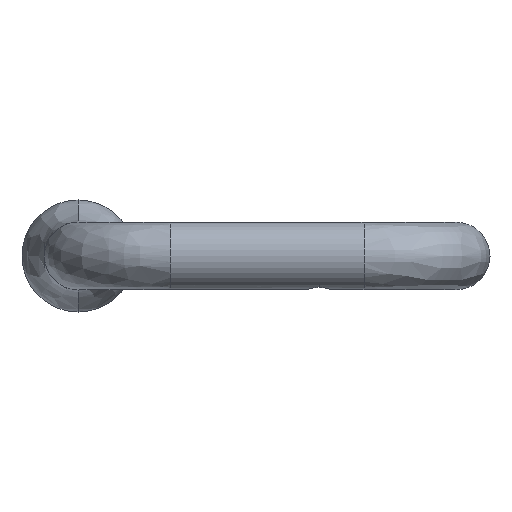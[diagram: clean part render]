
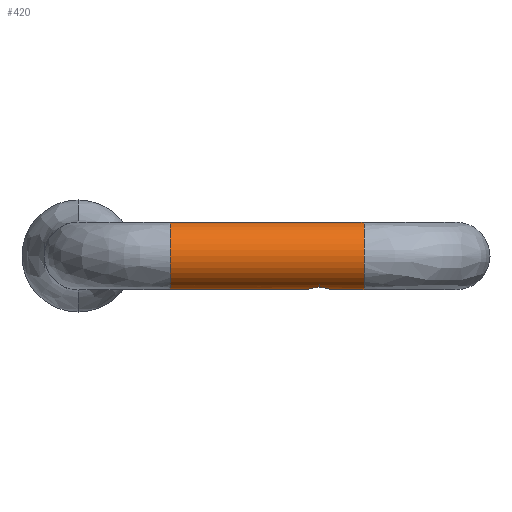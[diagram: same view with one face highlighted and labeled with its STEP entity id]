
A CAD part, front view. The second image highlights one B-rep face of the part: STEP entity #420.
In plain terms, the highlighted cylindrical face has radius 6 mm (diameter 12 mm), a partial arc.
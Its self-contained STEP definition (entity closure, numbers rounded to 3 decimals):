
#420=ADVANCED_FACE('',(#843),#5998,.T.);
#843=FACE_OUTER_BOUND('',#1266,.T.);
#1266=EDGE_LOOP('',(#2990,#2991,#2992,#2993,#2994,#2995,#2996,#2997,#2998));
#2990=ORIENTED_EDGE('',*,*,#3924,.F.);
#2991=ORIENTED_EDGE('',*,*,#3925,.F.);
#2992=ORIENTED_EDGE('',*,*,#3956,.F.);
#2993=ORIENTED_EDGE('',*,*,#3938,.F.);
#2994=ORIENTED_EDGE('',*,*,#3948,.F.);
#2995=ORIENTED_EDGE('',*,*,#3947,.F.);
#2996=ORIENTED_EDGE('',*,*,#3937,.F.);
#2997=ORIENTED_EDGE('',*,*,#3923,.F.);
#2998=ORIENTED_EDGE('',*,*,#3931,.F.);
#3923=EDGE_CURVE('',#5881,#5882,#3965,.T.);
#3924=EDGE_CURVE('',#5888,#5880,#3966,.T.);
#3925=EDGE_CURVE('',#5887,#5888,#4531,.T.);
#3931=EDGE_CURVE('',#5880,#5881,#4537,.T.);
#3937=EDGE_CURVE('',#5882,#5883,#5420,.T.);
#3938=EDGE_CURVE('',#5885,#5886,#5421,.T.);
#3947=EDGE_CURVE('',#5883,#5884,#5422,.T.);
#3948=EDGE_CURVE('',#5884,#5885,#5423,.T.);
#3956=EDGE_CURVE('',#5886,#5887,#3979,.T.);
#3965=(
BOUNDED_CURVE()
B_SPLINE_CURVE(3,(#15881,#15882,#15883,#15884),.UNSPECIFIED.,.F.,.F.)
B_SPLINE_CURVE_WITH_KNOTS((4,4),(0.,5.819),.UNSPECIFIED.)
CURVE()
GEOMETRIC_REPRESENTATION_ITEM()
RATIONAL_B_SPLINE_CURVE((1.,1.,1.,1.))
REPRESENTATION_ITEM('')
);
#3966=(
BOUNDED_CURVE()
B_SPLINE_CURVE(3,(#15885,#15886,#15887,#15888),.UNSPECIFIED.,.F.,.F.)
B_SPLINE_CURVE_WITH_KNOTS((4,4),(0.,34.528),.UNSPECIFIED.)
CURVE()
GEOMETRIC_REPRESENTATION_ITEM()
RATIONAL_B_SPLINE_CURVE((1.,1.,1.,1.))
REPRESENTATION_ITEM('')
);
#3979=(
BOUNDED_CURVE()
B_SPLINE_CURVE(3,(#16012,#16013,#16014,#16015),.UNSPECIFIED.,.F.,.F.)
B_SPLINE_CURVE_WITH_KNOTS((4,4),(-24.349,0.),.UNSPECIFIED.)
CURVE()
GEOMETRIC_REPRESENTATION_ITEM()
RATIONAL_B_SPLINE_CURVE((1.,1.,1.,1.))
REPRESENTATION_ITEM('')
);
#4531=TRIMMED_CURVE($,#5101,(#15890),(#15891),.T.,.CARTESIAN.);
#4537=TRIMMED_CURVE($,#5107,(#15908),(#15909),.T.,.CARTESIAN.);
#5101=CIRCLE('',#7070,6.);
#5107=CIRCLE('',#7076,6.);
#5420=B_SPLINE_CURVE_WITH_KNOTS('',3,(#15927,#15928,#15929,#15930),
 .UNSPECIFIED.,.F.,.F.,(4,4),(-0.519,0.),.UNSPECIFIED.);
#5421=B_SPLINE_CURVE_WITH_KNOTS('',3,(#15931,#15932,#15933,#15934),
 .UNSPECIFIED.,.F.,.F.,(4,4),(-0.519,0.),.UNSPECIFIED.);
#5422=B_SPLINE_CURVE_WITH_KNOTS('',3,(#15966,#15967,#15968,#15969,#15970,
#15971,#15972,#15973,#15974,#15975),.UNSPECIFIED.,.F.,.F.,(4,2,2,2,4),(-2.925,
-2.58,-1.721,-0.862,0.),
 .UNSPECIFIED.);
#5423=B_SPLINE_CURVE_WITH_KNOTS('',3,(#15976,#15977,#15978,#15979,#15980,
#15981,#15982,#15983,#15984,#15985),.UNSPECIFIED.,.F.,.F.,(4,2,2,2,4),(-2.925,
-2.063,-1.204,-0.345,0.),
 .UNSPECIFIED.);
#5880=VERTEX_POINT('',#13598);
#5881=VERTEX_POINT('',#13599);
#5882=VERTEX_POINT('',#13600);
#5883=VERTEX_POINT('',#13601);
#5884=VERTEX_POINT('',#13602);
#5885=VERTEX_POINT('',#13603);
#5886=VERTEX_POINT('',#13604);
#5887=VERTEX_POINT('',#13605);
#5888=VERTEX_POINT('',#13606);
#5998=CYLINDRICAL_SURFACE('',#6510,6.);
#6510=AXIS2_PLACEMENT_3D('',#13033,#7194,$);
#7070=AXIS2_PLACEMENT_3D($,#15889,#8305,#8306);
#7076=AXIS2_PLACEMENT_3D($,#15907,#8317,#8318);
#7194=DIRECTION('',(-1.,0.,0.));
#8305=DIRECTION('',(-1.,0.,0.));
#8306=DIRECTION('',(0.,0.,-1.));
#8317=DIRECTION('',(1.,0.,0.));
#8318=DIRECTION('',(0.,0.,1.));
#13033=CARTESIAN_POINT('',(2.,-120.367,0.));
#13598=CARTESIAN_POINT('',(19.264,-120.367,6.));
#13599=CARTESIAN_POINT('',(19.264,-120.367,-6.));
#13600=CARTESIAN_POINT('',(13.445,-120.367,-6.));
#13601=CARTESIAN_POINT('',(13.363,-120.874,-5.979));
#13602=CARTESIAN_POINT('',(11.265,-122.525,-5.598));
#13603=CARTESIAN_POINT('',(9.167,-120.874,-5.979));
#13604=CARTESIAN_POINT('',(9.085,-120.367,-6.));
#13605=CARTESIAN_POINT('',(-15.264,-120.367,-6.));
#13606=CARTESIAN_POINT('',(-15.264,-120.367,6.));
#15881=CARTESIAN_POINT('',(19.264,-120.367,-6.));
#15882=CARTESIAN_POINT('',(17.537,-120.367,-6.));
#15883=CARTESIAN_POINT('',(15.567,-120.367,-6.));
#15884=CARTESIAN_POINT('',(13.445,-120.367,-6.));
#15885=CARTESIAN_POINT('',(-15.264,-120.367,6.));
#15886=CARTESIAN_POINT('',(-6.057,-120.367,6.));
#15887=CARTESIAN_POINT('',(10.057,-120.367,6.));
#15888=CARTESIAN_POINT('',(19.264,-120.367,6.));
#15889=CARTESIAN_POINT('',(-15.264,-120.367,0.));
#15890=CARTESIAN_POINT('',(-15.264,-120.367,-6.));
#15891=CARTESIAN_POINT('',(-15.264,-120.367,6.));
#15907=CARTESIAN_POINT('',(19.264,-120.367,0.));
#15908=CARTESIAN_POINT('',(19.264,-120.367,6.));
#15909=CARTESIAN_POINT('',(19.264,-120.367,-6.));
#15927=CARTESIAN_POINT('',(13.445,-120.367,-6.));
#15928=CARTESIAN_POINT('',(13.445,-120.541,-6.));
#15929=CARTESIAN_POINT('',(13.417,-120.711,-5.992));
#15930=CARTESIAN_POINT('',(13.363,-120.874,-5.979));
#15931=CARTESIAN_POINT('',(9.167,-120.874,-5.979));
#15932=CARTESIAN_POINT('',(9.113,-120.711,-5.992));
#15933=CARTESIAN_POINT('',(9.085,-120.541,-6.));
#15934=CARTESIAN_POINT('',(9.085,-120.367,-6.));
#15966=CARTESIAN_POINT('',(13.363,-120.874,-5.979));
#15967=CARTESIAN_POINT('',(13.336,-120.984,-5.969));
#15968=CARTESIAN_POINT('',(13.301,-121.093,-5.957));
#15969=CARTESIAN_POINT('',(13.148,-121.459,-5.906));
#15970=CARTESIAN_POINT('',(12.989,-121.695,-5.855));
#15971=CARTESIAN_POINT('',(12.593,-122.092,-5.75));
#15972=CARTESIAN_POINT('',(12.357,-122.25,-5.698));
#15973=CARTESIAN_POINT('',(11.833,-122.469,-5.621));
#15974=CARTESIAN_POINT('',(11.552,-122.525,-5.598));
#15975=CARTESIAN_POINT('',(11.265,-122.525,-5.598));
#15976=CARTESIAN_POINT('',(11.265,-122.525,-5.598));
#15977=CARTESIAN_POINT('',(10.978,-122.525,-5.598));
#15978=CARTESIAN_POINT('',(10.697,-122.469,-5.621));
#15979=CARTESIAN_POINT('',(10.173,-122.25,-5.698));
#15980=CARTESIAN_POINT('',(9.937,-122.092,-5.75));
#15981=CARTESIAN_POINT('',(9.54,-121.695,-5.855));
#15982=CARTESIAN_POINT('',(9.382,-121.459,-5.906));
#15983=CARTESIAN_POINT('',(9.229,-121.093,-5.957));
#15984=CARTESIAN_POINT('',(9.193,-120.984,-5.969));
#15985=CARTESIAN_POINT('',(9.167,-120.874,-5.979));
#16012=CARTESIAN_POINT('',(9.085,-120.367,-6.));
#16013=CARTESIAN_POINT('',(0.702,-120.367,-6.));
#16014=CARTESIAN_POINT('',(-8.92,-120.367,-6.));
#16015=CARTESIAN_POINT('',(-15.264,-120.367,-6.));
